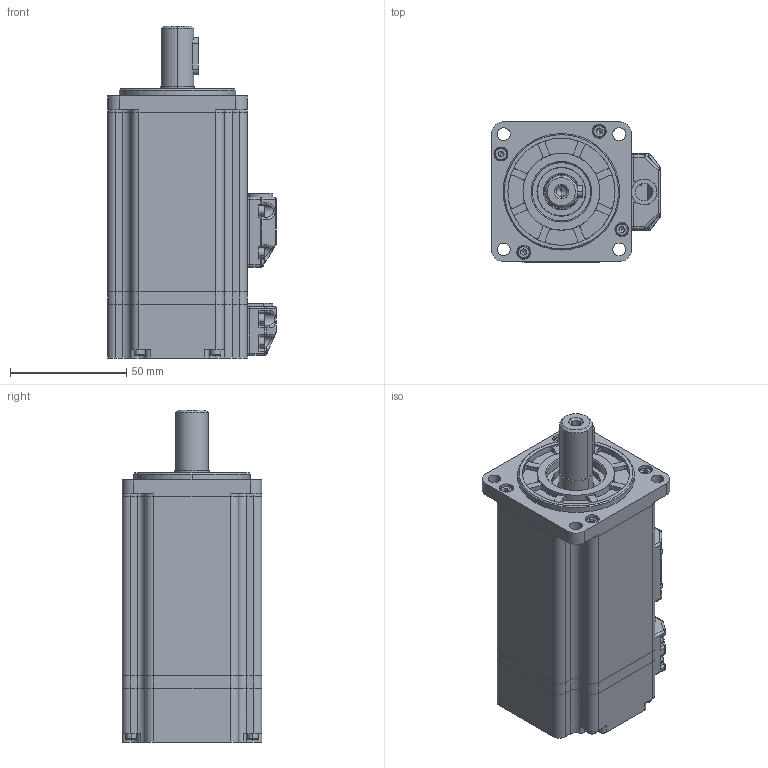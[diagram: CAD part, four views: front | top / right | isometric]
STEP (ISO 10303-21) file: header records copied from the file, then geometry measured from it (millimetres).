
FILE_DESCRIPTION (( 'STEP AP203' ), '1' );
FILE_NAME ('淕儂蚾饜.STEP', '2020-03-30T07:58:51', ( 'admin' ), ( '' ), 'SwSTEP 2.0', 'SolidWorks 2016', '' );
FILE_SCHEMA (( 'CONFIG_CONTROL_DESIGN' ));
Length unit declared in the file: millimetre
Products named in the file (1): 淕儂蚾饜
Bounding box: 72.5 x 60 x 142.5 mm (x, y, z)
Volume: 154227.2 mm3; surface area: 98141.6 mm2
Topology: 28 solids, 28 shells, 1593 faces, 4260 edges, 2663 vertices
Faces by surface type: cylinder 665, plane 594, cone 146, torus 94, sphere 70, bspline 24
Entity records: 52669 total; most frequent: CARTESIAN_POINT 13009, DIRECTION 8642, ORIENTED_EDGE 8152, EDGE_CURVE 4076, AXIS2_PLACEMENT_3D 3364, VERTEX_POINT 2599, LINE 1914, VECTOR 1914
